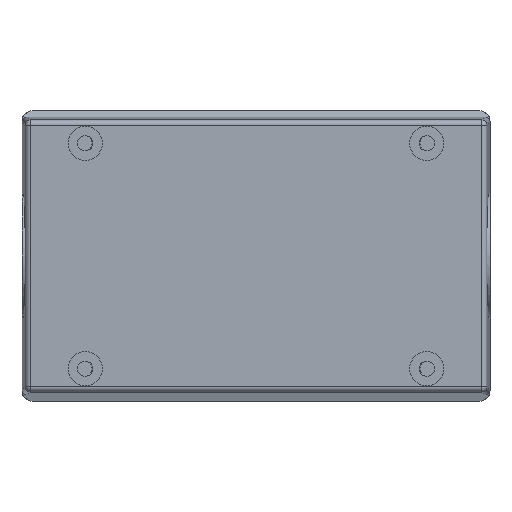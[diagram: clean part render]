
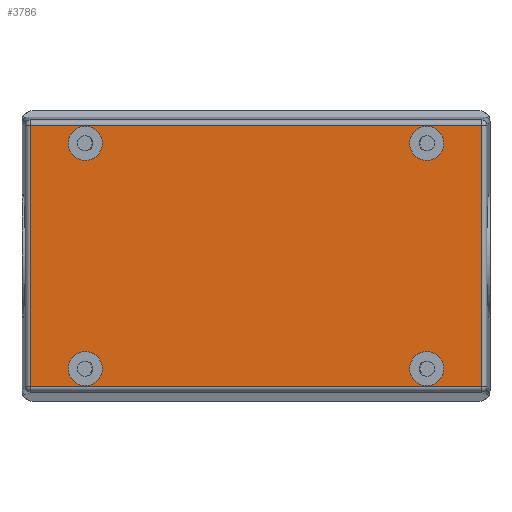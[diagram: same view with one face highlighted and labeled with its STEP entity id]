
A CAD part, front view. The second image highlights one B-rep face of the part: STEP entity #3786.
In plain terms, the highlighted planar face has unit normal (0, -1, 0).
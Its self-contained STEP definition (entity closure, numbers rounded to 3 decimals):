
#2=CARTESIAN_POINT('',(50.,0.,33.));
#3=DIRECTION('',(0.,-1.,0.));
#4=DIRECTION('',(1.,0.,0.));
#5=AXIS2_PLACEMENT_3D('',#2,#3,#4);
#7=CARTESIAN_POINT('',(50.,0.,33.));
#8=DIRECTION('',(0.,-1.,0.));
#9=DIRECTION('',(-1.,0.,0.));
#10=AXIS2_PLACEMENT_3D('',#7,#8,#9);
#12=CARTESIAN_POINT('',(-50.,0.,33.));
#13=DIRECTION('',(0.,-1.,0.));
#14=DIRECTION('',(1.,0.,0.));
#15=AXIS2_PLACEMENT_3D('',#12,#13,#14);
#17=CARTESIAN_POINT('',(-50.,0.,33.));
#18=DIRECTION('',(0.,-1.,0.));
#19=DIRECTION('',(-1.,0.,0.));
#20=AXIS2_PLACEMENT_3D('',#17,#18,#19);
#22=CARTESIAN_POINT('',(-50.,0.,-33.));
#23=DIRECTION('',(0.,-1.,0.));
#24=DIRECTION('',(1.,0.,0.));
#25=AXIS2_PLACEMENT_3D('',#22,#23,#24);
#27=CARTESIAN_POINT('',(-50.,0.,-33.));
#28=DIRECTION('',(0.,-1.,0.));
#29=DIRECTION('',(-1.,0.,0.));
#30=AXIS2_PLACEMENT_3D('',#27,#28,#29);
#32=CARTESIAN_POINT('',(50.,0.,-33.));
#33=DIRECTION('',(0.,-1.,0.));
#34=DIRECTION('',(1.,0.,0.));
#35=AXIS2_PLACEMENT_3D('',#32,#33,#34);
#37=CARTESIAN_POINT('',(50.,0.,-33.));
#38=DIRECTION('',(0.,-1.,0.));
#39=DIRECTION('',(-1.,0.,0.));
#40=AXIS2_PLACEMENT_3D('',#37,#38,#39);
#42=DIRECTION('',(0.,0.,1.));
#43=VECTOR('',#42,76.64);
#44=CARTESIAN_POINT('',(66.07,0.,-38.32));
#45=LINE('',#44,#43);
#46=DIRECTION('',(1.,0.,0.));
#47=VECTOR('',#46,132.14);
#48=CARTESIAN_POINT('',(-66.07,0.,-38.32));
#49=LINE('',#48,#47);
#50=DIRECTION('',(0.,0.,-1.));
#51=VECTOR('',#50,76.64);
#52=CARTESIAN_POINT('',(-66.07,0.,38.32));
#53=LINE('',#52,#51);
#54=DIRECTION('',(-1.,0.,0.));
#55=VECTOR('',#54,132.14);
#56=CARTESIAN_POINT('',(66.07,0.,38.32));
#57=LINE('',#56,#55);
#3001=CARTESIAN_POINT('',(55.,0.,33.));
#3002=CARTESIAN_POINT('',(45.,0.,33.));
#3003=VERTEX_POINT('',#3001);
#3004=VERTEX_POINT('',#3002);
#3005=CARTESIAN_POINT('',(-45.,0.,33.));
#3006=CARTESIAN_POINT('',(-55.,0.,33.));
#3007=VERTEX_POINT('',#3005);
#3008=VERTEX_POINT('',#3006);
#3009=CARTESIAN_POINT('',(-45.,0.,-33.));
#3010=CARTESIAN_POINT('',(-55.,0.,-33.));
#3011=VERTEX_POINT('',#3009);
#3012=VERTEX_POINT('',#3010);
#3013=CARTESIAN_POINT('',(55.,0.,-33.));
#3014=CARTESIAN_POINT('',(45.,0.,-33.));
#3015=VERTEX_POINT('',#3013);
#3016=VERTEX_POINT('',#3014);
#3487=CARTESIAN_POINT('',(66.07,0.,-38.32));
#3488=CARTESIAN_POINT('',(66.07,0.,38.32));
#3489=VERTEX_POINT('',#3487);
#3490=VERTEX_POINT('',#3488);
#3497=CARTESIAN_POINT('',(-66.07,0.,-38.32));
#3498=VERTEX_POINT('',#3497);
#3507=CARTESIAN_POINT('',(-66.07,0.,38.32));
#3508=VERTEX_POINT('',#3507);
#3747=CARTESIAN_POINT('',(0.,0.,0.));
#3748=DIRECTION('',(0.,1.,0.));
#3749=DIRECTION('',(-1.,0.,0.));
#3750=AXIS2_PLACEMENT_3D('',#3747,#3748,#3749);
#3751=PLANE('',#3750);
#3753=ORIENTED_EDGE('',*,*,#3752,.F.);
#3755=ORIENTED_EDGE('',*,*,#3754,.F.);
#3757=ORIENTED_EDGE('',*,*,#3756,.F.);
#3759=ORIENTED_EDGE('',*,*,#3758,.F.);
#3760=EDGE_LOOP('',(#3753,#3755,#3757,#3759));
#3761=FACE_OUTER_BOUND('',#3760,.F.);
#3763=ORIENTED_EDGE('',*,*,#3762,.T.);
#3765=ORIENTED_EDGE('',*,*,#3764,.T.);
#3766=EDGE_LOOP('',(#3763,#3765));
#3767=FACE_BOUND('',#3766,.F.);
#3769=ORIENTED_EDGE('',*,*,#3768,.T.);
#3771=ORIENTED_EDGE('',*,*,#3770,.T.);
#3772=EDGE_LOOP('',(#3769,#3771));
#3773=FACE_BOUND('',#3772,.F.);
#3775=ORIENTED_EDGE('',*,*,#3774,.T.);
#3777=ORIENTED_EDGE('',*,*,#3776,.T.);
#3778=EDGE_LOOP('',(#3775,#3777));
#3779=FACE_BOUND('',#3778,.F.);
#3781=ORIENTED_EDGE('',*,*,#3780,.T.);
#3783=ORIENTED_EDGE('',*,*,#3782,.T.);
#3784=EDGE_LOOP('',(#3781,#3783));
#3785=FACE_BOUND('',#3784,.F.);
#3786=ADVANCED_FACE('',(#3761,#3767,#3773,#3779,#3785),#3751,.F.);
#6=CIRCLE('',#5,5.);
#11=CIRCLE('',#10,5.);
#16=CIRCLE('',#15,5.);
#21=CIRCLE('',#20,5.);
#26=CIRCLE('',#25,5.);
#31=CIRCLE('',#30,5.);
#36=CIRCLE('',#35,5.);
#41=CIRCLE('',#40,5.);
#3752=EDGE_CURVE('',#3489,#3490,#45,.T.);
#3754=EDGE_CURVE('',#3498,#3489,#49,.T.);
#3756=EDGE_CURVE('',#3508,#3498,#53,.T.);
#3758=EDGE_CURVE('',#3490,#3508,#57,.T.);
#3762=EDGE_CURVE('',#3003,#3004,#6,.T.);
#3764=EDGE_CURVE('',#3004,#3003,#11,.T.);
#3768=EDGE_CURVE('',#3007,#3008,#16,.T.);
#3770=EDGE_CURVE('',#3008,#3007,#21,.T.);
#3774=EDGE_CURVE('',#3011,#3012,#26,.T.);
#3776=EDGE_CURVE('',#3012,#3011,#31,.T.);
#3780=EDGE_CURVE('',#3015,#3016,#36,.T.);
#3782=EDGE_CURVE('',#3016,#3015,#41,.T.);
